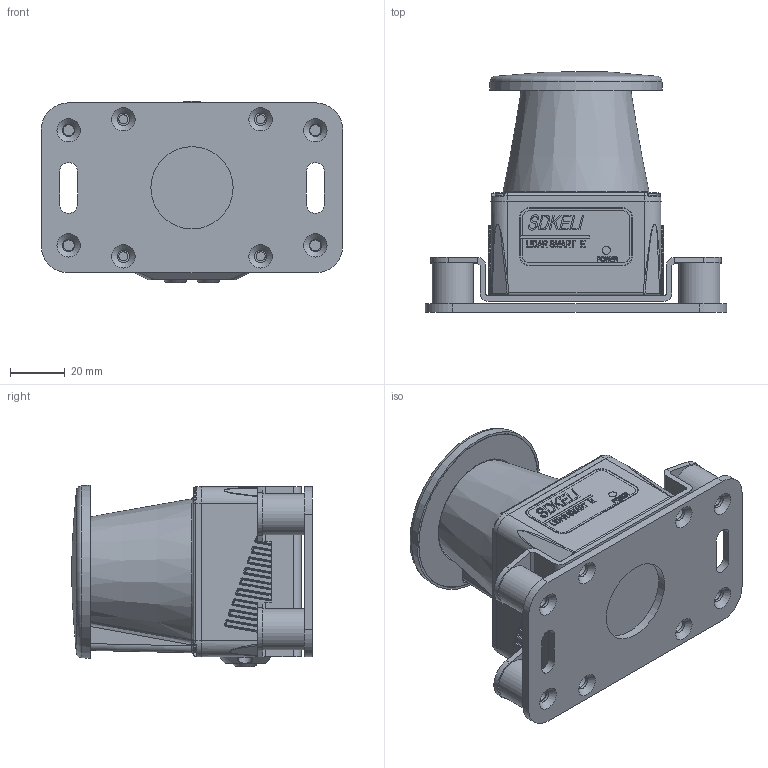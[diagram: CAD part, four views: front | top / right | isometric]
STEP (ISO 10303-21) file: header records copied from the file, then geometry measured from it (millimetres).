
FILE_DESCRIPTION(/* description */ (''),/* implementation_level */ '2;1');
FILE_NAME(/* name */ 'LSE-JZ-asm.stp',/* time_stamp */ '2025-08-06T14:57:53+08:00',/* author */ (''),/* organization */ (''),/* preprocessor_version */ 'ST-DEVELOPER v16',/* originating_system */ 'SIEMENS PLM Software NX 10.0',/* authorisation */ '');
FILE_SCHEMA (('AP203_CONFIGURATION_CONTROLLED_3D_DESIGN_OF_MECHANICAL_PARTS_AND_ASSEMBLIES_MIM_LF { 1 0 10303 403 2 1 2}'));
Products named in the file (1): JSB-34C87966jxq3
Bounding box: 110 x 87.78 x 66.16 mm (x, y, z)
Volume: 106495.1 mm3; surface area: 95504.2 mm2
Topology: 8 solids, 14 shells, 2069 faces, 5142 edges, 3160 vertices
Faces by surface type: plane 836, cylinder 553, bspline 286, cone 153, extrusion 95, sphere 82, torus 64
Full cylindrical faces by diameter (mm): 2.3 x2, 3 x5, 3.3 x8, 4 x8, 4.5 x20, 5 x2, 5.3 x8, 5.9 x4, 6 x4, 15 x4, 30 x1
Entity records: 75392 total; most frequent: CARTESIAN_POINT 25653, ORIENTED_EDGE 9728, DIRECTION 8052, EDGE_CURVE 4864, VERTEX_POINT 3082, AXIS2_PLACEMENT_3D 2953, EDGE_LOOP 2384, VECTOR 2146
